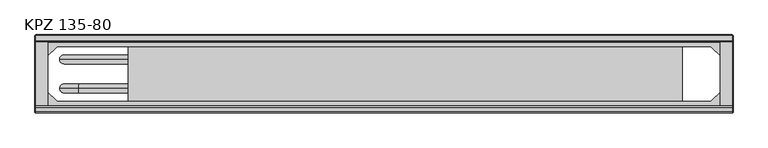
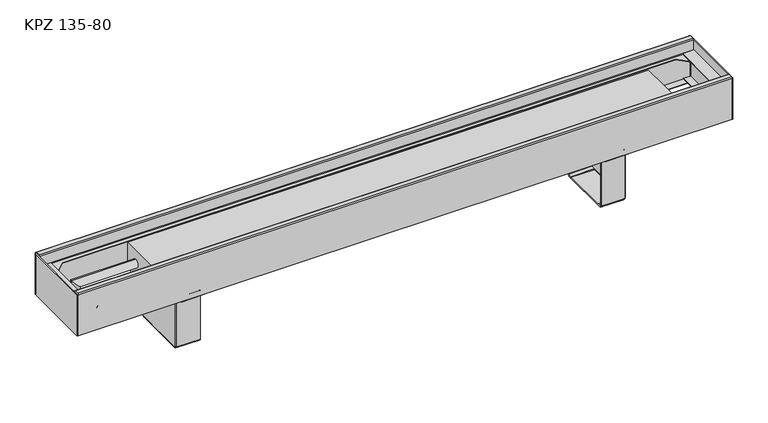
"""IFC4 building model written with IfcOpenShell, lengths in millimetres: proxy geometry, TECHNO_Конвектор напольный_Vita KPZ 135 : KPZ 135-80."""

from ifc_helpers import new_model, si_unit, point, frame, origin, place, context, project, spatial, polyline, circle_curve, ellipse_curve, trimmed, outline, extrude, source, transform, mapped, element, save
from ifc_brep_helpers import plane_surface, cylinder_surface, revolved_surface, advanced_brep


def kpz_135_80_52dbe980(model_context):
    return source(origin(), model_context, "Body", "SolidModel", [
        advanced_brep(
        [(409.7, -116.8, 1.5), (409.7, -114.5, 3.8), (409.7, -114.5, 4.9), (409.7, -116.0, 4.9), (409.7, -116.0, 3.8), (409.7, -116.8, 3.0), (409.7, -124.5, 3.0), (409.7, -124.5, 1.5), (409.7, -117.6, 1.5), (409.7, -114.5, 97.7), (409.7, -113.7, 98.5), (409.7, -101.0, 98.5), (409.7, -101.0, 100.0), (409.7, -113.7, 100.0), (409.7, -116.0, 97.7), (409.7, -116.0, 95.5), (409.7, -114.5, 95.5), (409.7, -220.5, 3.8), (409.7, -218.2, 1.5), (409.7, -217.4, 1.5), (409.7, -210.5, 1.5), (409.7, -210.5, 3.0), (409.7, -218.2, 3.0), (409.7, -219.0, 3.8), (409.7, -219.0, 4.9), (409.7, -220.5, 4.9), (409.7, -219.0, 97.7), (409.7, -221.3, 100.0), (409.7, -234.0, 100.0), (409.7, -234.0, 98.5), (409.7, -221.3, 98.5), (409.7, -220.5, 97.7), (409.7, -220.5, 95.5), (409.7, -219.0, 95.5), (367.0, -220.5, 97.7), (367.0, -221.3, 98.5), (367.0, -234.0, 98.5), (367.0, -234.0, 100.0), (367.0, -221.3, 100.0), (367.0, -219.0, 97.7), (367.0, -219.0, 3.8), (367.0, -218.2, 3.0), (367.0, -210.5, 3.0), (367.0, -210.5, 1.5), (367.0, -124.5, 1.5), (367.0, -124.5, 3.0), (367.0, -116.8, 3.0), (367.0, -116.0, 3.8), (367.0, -116.0, 97.7), (367.0, -113.7, 100.0), (367.0, -101.0, 100.0), (367.0, -101.0, 98.5), (367.0, -113.7, 98.5), (367.0, -114.5, 97.7), (367.0, -114.5, 3.8), (367.0, -116.8, 1.5), (367.0, -117.6, 1.5), (367.0, -117.6, 0.0), (367.0, -217.4, 0.0), (367.0, -217.4, 1.5), (367.0, -218.2, 1.5), (367.0, -220.5, 3.8), (410.5, -116.8, 95.5), (410.5, -218.2, 95.5), (412.0, -218.2, 95.5), (412.0, -116.8, 95.5), (412.0, -116.8, 4.9), (412.0, -117.6, 4.9), (410.5, -117.6, 4.9), (410.5, -116.8, 4.9), (410.5, -218.2, 4.9), (410.5, -217.4, 4.9), (412.0, -217.4, 4.9), (412.0, -218.2, 4.9), (410.5, -117.6, 2.3), (410.5, -217.4, 2.3), (412.0, -217.4, 2.3), (412.0, -117.6, 2.3), (409.7, -117.6, 0.0), (409.7, -217.4, 0.0)],
        [
            (0, 1, circle_curve(frame((409.7, -116.8, 3.8), z_axis=(1.0, 0.0, 0.0), x_axis=(0.0, -1.0, 0.0)), 2.3)),
            (1, 2),
            (2, 3),
            (3, 4),
            (4, 5, circle_curve(frame((409.7, -116.8, 3.8), z_axis=(-1.0, 0.0, 0.0), x_axis=(0.0, -1.0, 0.0)), 0.8)),
            (5, 6),
            (6, 7),
            (7, 8),
            (8, 0),
            (9, 10, circle_curve(frame((409.7, -113.7, 97.7), z_axis=(-1.0, 0.0, 0.0), x_axis=(0.0, -1.0, 0.0)), 0.8)),
            (10, 11),
            (11, 12),
            (12, 13),
            (13, 14, circle_curve(frame((409.7, -113.7, 97.7), z_axis=(1.0, 0.0, 0.0), x_axis=(0.0, -1.0, 0.0)), 2.3)),
            (14, 15),
            (15, 16),
            (16, 9),
            (17, 18, circle_curve(frame((409.7, -218.2, 3.8), z_axis=(1.0, 0.0, 0.0), x_axis=(0.0, -1.0, 0.0)), 2.3)),
            (18, 19),
            (19, 20),
            (20, 21),
            (21, 22),
            (22, 23, circle_curve(frame((409.7, -218.2, 3.8), z_axis=(-1.0, 0.0, 0.0), x_axis=(0.0, -1.0, 0.0)), 0.8)),
            (23, 24),
            (24, 25),
            (25, 17),
            (26, 27, circle_curve(frame((409.7, -221.3, 97.7), z_axis=(1.0, 0.0, 0.0), x_axis=(0.0, -1.0, 0.0)), 2.3)),
            (27, 28),
            (28, 29),
            (29, 30),
            (30, 31, circle_curve(frame((409.7, -221.3, 97.7), z_axis=(-1.0, 0.0, 0.0), x_axis=(0.0, -1.0, 0.0)), 0.8)),
            (31, 32),
            (32, 33),
            (33, 26),
            (34, 35, circle_curve(frame((367.0, -221.3, 97.7), z_axis=(1.0, 0.0, 0.0), x_axis=(0.0, -1.0, 0.0)), 0.8)),
            (35, 36),
            (36, 37),
            (37, 38),
            (38, 39, circle_curve(frame((367.0, -221.3, 97.7), z_axis=(-1.0, 0.0, 0.0), x_axis=(0.0, -1.0, 0.0)), 2.3)),
            (39, 40),
            (40, 41, circle_curve(frame((367.0, -218.2, 3.8), z_axis=(1.0, 0.0, 0.0), x_axis=(0.0, -1.0, 0.0)), 0.8)),
            (41, 42),
            (42, 43),
            (43, 44),
            (44, 45),
            (45, 46),
            (46, 47, circle_curve(frame((367.0, -116.8, 3.8), z_axis=(1.0, 0.0, 0.0), x_axis=(0.0, -1.0, 0.0)), 0.8)),
            (47, 48),
            (48, 49, circle_curve(frame((367.0, -113.7, 97.7), z_axis=(-1.0, 0.0, 0.0), x_axis=(0.0, -1.0, 0.0)), 2.3)),
            (49, 50),
            (50, 51),
            (51, 52),
            (52, 53, circle_curve(frame((367.0, -113.7, 97.7), z_axis=(1.0, 0.0, 0.0), x_axis=(0.0, -1.0, 0.0)), 0.8)),
            (53, 54),
            (54, 55, circle_curve(frame((367.0, -116.8, 3.8), z_axis=(-1.0, 0.0, 0.0), x_axis=(0.0, -1.0, 0.0)), 2.3)),
            (55, 56),
            (56, 57),
            (57, 58),
            (58, 59),
            (59, 60),
            (60, 61, circle_curve(frame((367.0, -218.2, 3.8), z_axis=(-1.0, 0.0, 0.0), x_axis=(0.0, -1.0, 0.0)), 2.3)),
            (61, 34),
            (30, 35),
            (34, 31),
            (29, 36),
            (28, 37),
            (27, 38),
            (26, 39),
            (33, 24),
            (23, 40),
            (22, 41),
            (5, 46),
            (45, 6),
            (4, 47),
            (3, 15),
            (14, 48),
            (13, 49),
            (12, 50),
            (11, 51),
            (10, 52),
            (9, 53),
            (16, 2),
            (1, 54),
            (0, 55),
            (8, 56),
            (17, 61),
            (60, 18),
            (25, 32),
            (21, 42),
            (20, 43),
            (59, 19),
            (44, 7),
            (15, 62, circle_curve(frame((409.7, -116.8, 95.5), z_axis=(0.0, 0.0, -1.0), x_axis=(-1.0, 0.0, 0.0)), 0.8)),
            (62, 63),
            (63, 33, circle_curve(frame((409.7, -218.2, 95.5), z_axis=(0.0, 0.0, -1.0), x_axis=(-1.0, 0.0, 0.0)), 0.8)),
            (32, 64, circle_curve(frame((409.7, -218.2, 95.5), z_axis=(0.0, 0.0, 1.0), x_axis=(-1.0, 0.0, 0.0)), 2.3)),
            (64, 65),
            (65, 16, circle_curve(frame((409.7, -116.8, 95.5), z_axis=(0.0, 0.0, 1.0), x_axis=(-1.0, 0.0, 0.0)), 2.3)),
            (2, 66, circle_curve(frame((409.7, -116.8, 4.9), z_axis=(0.0, 0.0, -1.0), x_axis=(-1.0, 0.0, 0.0)), 2.3)),
            (66, 67),
            (67, 68),
            (68, 69),
            (69, 3, circle_curve(frame((409.7, -116.8, 4.9), z_axis=(0.0, 0.0, 1.0), x_axis=(-1.0, 0.0, 0.0)), 0.8)),
            (24, 70, circle_curve(frame((409.7, -218.2, 4.9), z_axis=(0.0, 0.0, 1.0), x_axis=(-1.0, 0.0, 0.0)), 0.8)),
            (70, 71),
            (71, 72),
            (72, 73),
            (73, 25, circle_curve(frame((409.7, -218.2, 4.9), z_axis=(0.0, 0.0, -1.0), x_axis=(-1.0, 0.0, 0.0)), 2.3)),
            (69, 62),
            (68, 74),
            (74, 75),
            (75, 71),
            (70, 63),
            (64, 73),
            (72, 76),
            (76, 77),
            (77, 67),
            (66, 65),
            (8, 74, circle_curve(frame((409.7, -117.6, 2.3), z_axis=(0.0, -1.0, 0.0), x_axis=(-1.0, 0.0, 0.0)), 0.8)),
            (77, 78, circle_curve(frame((409.7, -117.6, 2.3), z_axis=(0.0, 1.0, 0.0), x_axis=(-1.0, 0.0, 0.0)), 2.3)),
            (78, 57),
            (58, 79),
            (79, 76, circle_curve(frame((409.7, -217.4, 2.3), z_axis=(0.0, -1.0, 0.0), x_axis=(-1.0, 0.0, 0.0)), 2.3)),
            (75, 19, circle_curve(frame((409.7, -217.4, 2.3), z_axis=(0.0, 1.0, 0.0), x_axis=(-1.0, 0.0, 0.0)), 0.8)),
            (20, 7),
            (79, 78),
        ],
        [
            plane_surface(frame((409.7, -222.1, 97.7), z_axis=(1.0, 0.0, 0.0), x_axis=(0.0, 0.0, 1.0))),
            plane_surface(frame((367.0, -222.1, 97.7), z_axis=(-1.0, 0.0, 0.0), x_axis=(0.0, 0.0, -1.0))),
            revolved_surface(polyline([(409.7, -222.10000000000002, 97.7), (367.0, -222.10000000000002, 97.7)]), (409.7, -221.3, 97.7), (1.0, 0.0, 0.0)),
            plane_surface(frame((367.0, -221.3, 98.5), z_axis=(0.0, 0.0, -1.0), x_axis=(1.0, 0.0, 0.0))),
            plane_surface(frame((367.0, -234.0, 98.5), z_axis=(0.0, -1.0, 0.0), x_axis=(1.0, 0.0, 0.0))),
            plane_surface(frame((367.0, -234.0, 100.0), z_axis=(0.0, 0.0, 1.0), x_axis=(1.0, 0.0, 0.0))),
            cylinder_surface(frame((409.7, -221.3, 97.7), z_axis=(-1.0, 0.0, 0.0), x_axis=(0.0, -1.0, 0.0)), 2.3),
            plane_surface(frame((367.0, -219.0, 97.7), z_axis=(0.0, 1.0, 0.0), x_axis=(1.0, 0.0, 0.0))),
            revolved_surface(polyline([(409.7, -219.0, 3.8), (367.0, -219.0, 3.8)]), (409.7, -218.2, 3.8), (1.0, 0.0, 0.0)),
            plane_surface(frame((367.0, -124.5, 3.0), z_axis=(0.0, 0.0, 1.0), x_axis=(1.0, 0.0, 0.0))),
            revolved_surface(polyline([(409.7, -117.6, 3.8), (367.0, -117.6, 3.8)]), (412.0, -116.8, 3.8), (1.0, 0.0, 0.0)),
            plane_surface(frame((367.0, -116.0, 3.8), z_axis=(0.0, -1.0, 0.0), x_axis=(1.0, 0.0, 0.0))),
            cylinder_surface(frame((412.0, -113.7, 97.7), z_axis=(-1.0, 0.0, 0.0), x_axis=(0.0, -1.0, 0.0)), 2.3),
            plane_surface(frame((367.0, -113.7, 100.0), z_axis=(0.0, 0.0, 1.0), x_axis=(1.0, 0.0, 0.0))),
            plane_surface(frame((367.0, -101.0, 100.0), z_axis=(0.0, 1.0, 0.0), x_axis=(1.0, 0.0, 0.0))),
            plane_surface(frame((367.0, -101.0, 98.5), z_axis=(0.0, 0.0, -1.0), x_axis=(1.0, 0.0, 0.0))),
            revolved_surface(polyline([(409.7, -114.5, 97.7), (367.0, -114.5, 97.7)]), (412.0, -113.7, 97.7), (1.0, 0.0, 0.0)),
            plane_surface(frame((367.0, -114.5, 97.7), z_axis=(0.0, 1.0, 0.0), x_axis=(1.0, 0.0, 0.0))),
            cylinder_surface(frame((412.0, -116.8, 3.8), z_axis=(-1.0, 0.0, 0.0), x_axis=(0.0, -1.0, 0.0)), 2.3),
            plane_surface(frame((367.0, -116.8, 1.5), z_axis=(0.0, 0.0, -1.0), x_axis=(1.0, 0.0, 0.0))),
            cylinder_surface(frame((409.7, -218.2, 3.8), z_axis=(-1.0, 0.0, 0.0), x_axis=(0.0, -1.0, 0.0)), 2.3),
            plane_surface(frame((367.0, -220.5, 3.8), z_axis=(0.0, -1.0, 0.0), x_axis=(1.0, 0.0, 0.0))),
            plane_surface(frame((367.0, -218.2, 3.0), z_axis=(0.0, 0.0, 1.0), x_axis=(1.0, 0.0, 0.0))),
            plane_surface(frame((367.0, -210.5, 3.0), z_axis=(0.0, 1.0, 0.0), x_axis=(1.0, 0.0, 0.0))),
            plane_surface(frame((367.0, -210.5, 1.5), z_axis=(0.0, 0.0, -1.0), x_axis=(1.0, 0.0, 0.0))),
            plane_surface(frame((367.0, -124.5, 1.5), z_axis=(0.0, -1.0, 0.0), x_axis=(1.0, 0.0, 0.0))),
            plane_surface(frame((409.7, -116.0, 95.5), z_axis=(0.0, 0.0, 1.0), x_axis=(0.0, -1.0, 0.0))),
            plane_surface(frame((409.7, -116.0, 4.9), z_axis=(0.0, 0.0, -1.0), x_axis=(0.0, 1.0, 0.0))),
            revolved_surface(polyline([(408.9, -116.8, 4.9), (408.9, -116.8, 95.5)]), (409.7, -116.8, 4.9), (0.0, 0.0, -1.0)),
            plane_surface(frame((410.5, -116.8, 95.5), z_axis=(-1.0, 0.0, 0.0), x_axis=(0.0, 0.0, -1.0))),
            plane_surface(frame((412.0, -117.6, 95.5), z_axis=(1.0, 0.0, 0.0), x_axis=(0.0, 0.0, -1.0))),
            cylinder_surface(frame((409.7, -116.8, 4.9), z_axis=(0.0, 0.0, 1.0), x_axis=(-1.0, 0.0, 0.0)), 2.3),
            cylinder_surface(frame((409.7, -218.2, 0.0), z_axis=(0.0, 0.0, 1.0), x_axis=(-1.0, 0.0, 0.0)), 2.3),
            revolved_surface(polyline([(408.9, -218.2, 4.9), (408.9, -218.2, 95.5)]), (409.7, -218.2, 0.0), (0.0, 0.0, -1.0)),
            plane_surface(frame((367.0, -117.6, 1.5), z_axis=(0.0, 1.0, 0.0), x_axis=(0.0, 0.0, 1.0))),
            plane_surface(frame((367.0, -217.4, 1.5), z_axis=(0.0, -1.0, 0.0), x_axis=(0.0, 0.0, -1.0))),
            plane_surface(frame((367.0, -117.6, 1.5), z_axis=(0.0, 0.0, 1.0), x_axis=(0.0, -1.0, 0.0))),
            revolved_surface(polyline([(408.9, -217.4, 2.3), (408.9, -117.6, 2.3)]), (409.7, -217.4, 2.3), (0.0, -1.0, 0.0)),
            cylinder_surface(frame((409.7, -217.4, 2.3), z_axis=(0.0, 1.0, 0.0), x_axis=(-1.0, 0.0, 0.0)), 2.3),
            plane_surface(frame((409.7, -117.6, 0.0), z_axis=(0.0, 0.0, -1.0), x_axis=(0.0, -1.0, 0.0))),
        ],
        [
            (0, [[1, 2, 3, 4, 5, 6, 7, 8, 9]]),
            (0, [[10, 11, 12, 13, 14, 15, 16, 17]]),
            (0, [[18, 19, 20, 21, 22, 23, 24, 25, 26]]),
            (0, [[27, 28, 29, 30, 31, 32, 33, 34]]),
            (1, [[35, 36, 37, 38, 39, 40, 41, 42, 43, 44, 45, 46, 47, 48, 49, 50, 51, 52, 53, 54, 55, 56, 57, 58, 59, 60, 61, 62]]),
            (2, [[-31, 63, -35, 64]]),
            (3, [[-30, 65, -36, -63]]),
            (4, [[-29, 66, -37, -65]]),
            (5, [[-28, 67, -38, -66]]),
            (6, [[-27, 68, -39, -67]]),
            (7, [[-40, -68, -34, 69, -24, 70]]),
            (8, [[-23, 71, -41, -70]]),
            (9, [[-6, 72, -46, 73]]),
            (10, [[-5, 74, -47, -72]]),
            (11, [[-48, -74, -4, 75, -15, 76]]),
            (12, [[-14, 77, -49, -76]]),
            (13, [[-13, 78, -50, -77]]),
            (14, [[-12, 79, -51, -78]]),
            (15, [[-11, 80, -52, -79]]),
            (16, [[-10, 81, -53, -80]]),
            (17, [[-54, -81, -17, 82, -2, 83]]),
            (18, [[-1, 84, -55, -83]]),
            (19, [[-84, -9, 85, -56]]),
            (20, [[-18, 86, -61, 87]]),
            (21, [[-62, -86, -26, 88, -32, -64]]),
            (22, [[-22, 89, -42, -71]]),
            (23, [[-21, 90, -43, -89]]),
            (24, [[-87, -60, 91, -19]]),
            (25, [[-7, -73, -45, 92]]),
            (26, [[93, 94, 95, -33, 96, 97, 98, -16]]),
            (27, [[99, 100, 101, 102, 103, -3]]),
            (27, [[104, 105, 106, 107, 108, -25]]),
            (28, [[-93, -75, -103, 109]]),
            (29, [[-94, -109, -102, 110, 111, 112, -105, 113]]),
            (30, [[-97, 114, -107, 115, 116, 117, -100, 118]]),
            (31, [[-98, -118, -99, -82]]),
            (32, [[-96, -88, -108, -114]]),
            (33, [[-95, -113, -104, -69]]),
            (34, [[-57, -85, 119, -110, -101, -117, 120, 121]]),
            (35, [[122, 123, -115, -106, -112, 124, -91, -59]]),
            (36, [[125, -92, -44, -90]]),
            (37, [[-119, -8, -125, -20, -124, -111]]),
            (38, [[-120, -116, -123, 126]]),
            (39, [[-121, -126, -122, -58]]),
        ],
    ),
        advanced_brep(
        [(-409.7, -218.2, 1.5), (-409.7, -220.5, 3.8), (-409.7, -220.5, 4.9), (-409.7, -219.0, 4.9), (-409.7, -219.0, 3.8), (-409.7, -218.2, 3.0), (-409.7, -210.5, 3.0), (-409.7, -210.5, 1.5), (-409.7, -217.4, 1.5), (-409.7, -220.5, 97.7), (-409.7, -221.3, 98.5), (-409.7, -234.0, 98.5), (-409.7, -234.0, 100.0), (-409.7, -221.3, 100.0), (-409.7, -219.0, 97.7), (-409.7, -219.0, 95.5), (-409.7, -220.5, 95.5), (-409.7, -114.5, 3.8), (-409.7, -116.8, 1.5), (-409.7, -117.6, 1.5), (-409.7, -124.5, 1.5), (-409.7, -124.5, 3.0), (-409.7, -116.8, 3.0), (-409.7, -116.0, 3.8), (-409.7, -116.0, 4.9), (-409.7, -114.5, 4.9), (-409.7, -116.0, 97.7), (-409.7, -113.7, 100.0), (-409.7, -101.0, 100.0), (-409.7, -101.0, 98.5), (-409.7, -113.7, 98.5), (-409.7, -114.5, 97.7), (-409.7, -114.5, 95.5), (-409.7, -116.0, 95.5), (-367.0, -114.5, 97.7), (-367.0, -113.7, 98.5), (-367.0, -101.0, 98.5), (-367.0, -101.0, 100.0), (-367.0, -113.7, 100.0), (-367.0, -116.0, 97.7), (-367.0, -116.0, 3.8), (-367.0, -116.8, 3.0), (-367.0, -124.5, 3.0), (-367.0, -124.5, 1.5), (-367.0, -210.5, 1.5), (-367.0, -210.5, 3.0), (-367.0, -218.2, 3.0), (-367.0, -219.0, 3.8), (-367.0, -219.0, 97.7), (-367.0, -221.3, 100.0), (-367.0, -234.0, 100.0), (-367.0, -234.0, 98.5), (-367.0, -221.3, 98.5), (-367.0, -220.5, 97.7), (-367.0, -220.5, 3.8), (-367.0, -218.2, 1.5), (-367.0, -217.4, 1.5), (-367.0, -217.4, 0.0), (-367.0, -117.6, 0.0), (-367.0, -117.6, 1.5), (-367.0, -116.8, 1.5), (-367.0, -114.5, 3.8), (-410.5, -218.2, 95.5), (-410.5, -116.8, 95.5), (-412.0, -116.8, 95.5), (-412.0, -218.2, 95.5), (-412.0, -218.2, 4.9), (-412.0, -217.4, 4.9), (-410.5, -217.4, 4.9), (-410.5, -218.2, 4.9), (-410.5, -116.8, 4.9), (-410.5, -117.6, 4.9), (-412.0, -117.6, 4.9), (-412.0, -116.8, 4.9), (-410.5, -217.4, 2.3), (-410.5, -117.6, 2.3), (-412.0, -117.6, 2.3), (-412.0, -217.4, 2.3), (-409.7, -217.4, 0.0), (-409.7, -117.6, 0.0)],
        [
            (0, 1, circle_curve(frame((-409.7, -218.2, 3.8), z_axis=(-1.0, 0.0, 0.0), x_axis=(0.0, 1.0, 0.0)), 2.3)),
            (1, 2),
            (2, 3),
            (3, 4),
            (4, 5, circle_curve(frame((-409.7, -218.2, 3.8), z_axis=(1.0, 0.0, 0.0), x_axis=(0.0, 1.0, 0.0)), 0.8)),
            (5, 6),
            (6, 7),
            (7, 8),
            (8, 0),
            (9, 10, circle_curve(frame((-409.7, -221.3, 97.7), z_axis=(1.0, 0.0, 0.0), x_axis=(0.0, 1.0, 0.0)), 0.8)),
            (10, 11),
            (11, 12),
            (12, 13),
            (13, 14, circle_curve(frame((-409.7, -221.3, 97.7), z_axis=(-1.0, 0.0, 0.0), x_axis=(0.0, 1.0, 0.0)), 2.3)),
            (14, 15),
            (15, 16),
            (16, 9),
            (17, 18, circle_curve(frame((-409.7, -116.8, 3.8), z_axis=(-1.0, 0.0, 0.0), x_axis=(0.0, 1.0, 0.0)), 2.3)),
            (18, 19),
            (19, 20),
            (20, 21),
            (21, 22),
            (22, 23, circle_curve(frame((-409.7, -116.8, 3.8), z_axis=(1.0, 0.0, 0.0), x_axis=(0.0, 1.0, 0.0)), 0.8)),
            (23, 24),
            (24, 25),
            (25, 17),
            (26, 27, circle_curve(frame((-409.7, -113.7, 97.7), z_axis=(-1.0, 0.0, 0.0), x_axis=(0.0, 1.0, 0.0)), 2.3)),
            (27, 28),
            (28, 29),
            (29, 30),
            (30, 31, circle_curve(frame((-409.7, -113.7, 97.7), z_axis=(1.0, 0.0, 0.0), x_axis=(0.0, 1.0, 0.0)), 0.8)),
            (31, 32),
            (32, 33),
            (33, 26),
            (34, 35, circle_curve(frame((-367.0, -113.7, 97.7), z_axis=(-1.0, 0.0, 0.0), x_axis=(0.0, 1.0, 0.0)), 0.8)),
            (35, 36),
            (36, 37),
            (37, 38),
            (38, 39, circle_curve(frame((-367.0, -113.7, 97.7), z_axis=(1.0, 0.0, 0.0), x_axis=(0.0, 1.0, 0.0)), 2.3)),
            (39, 40),
            (40, 41, circle_curve(frame((-367.0, -116.8, 3.8), z_axis=(-1.0, 0.0, 0.0), x_axis=(0.0, 1.0, 0.0)), 0.8)),
            (41, 42),
            (42, 43),
            (43, 44),
            (44, 45),
            (45, 46),
            (46, 47, circle_curve(frame((-367.0, -218.2, 3.8), z_axis=(-1.0, 0.0, 0.0), x_axis=(0.0, 1.0, 0.0)), 0.8)),
            (47, 48),
            (48, 49, circle_curve(frame((-367.0, -221.3, 97.7), z_axis=(1.0, 0.0, 0.0), x_axis=(0.0, 1.0, 0.0)), 2.3)),
            (49, 50),
            (50, 51),
            (51, 52),
            (52, 53, circle_curve(frame((-367.0, -221.3, 97.7), z_axis=(-1.0, 0.0, 0.0), x_axis=(0.0, 1.0, 0.0)), 0.8)),
            (53, 54),
            (54, 55, circle_curve(frame((-367.0, -218.2, 3.8), z_axis=(1.0, 0.0, 0.0), x_axis=(0.0, 1.0, 0.0)), 2.3)),
            (55, 56),
            (56, 57),
            (57, 58),
            (58, 59),
            (59, 60),
            (60, 61, circle_curve(frame((-367.0, -116.8, 3.8), z_axis=(1.0, 0.0, 0.0), x_axis=(0.0, 1.0, 0.0)), 2.3)),
            (61, 34),
            (30, 35),
            (34, 31),
            (29, 36),
            (28, 37),
            (27, 38),
            (26, 39),
            (33, 24),
            (23, 40),
            (22, 41),
            (5, 46),
            (45, 6),
            (4, 47),
            (3, 15),
            (14, 48),
            (13, 49),
            (12, 50),
            (11, 51),
            (10, 52),
            (9, 53),
            (16, 2),
            (1, 54),
            (0, 55),
            (8, 56),
            (17, 61),
            (60, 18),
            (25, 32),
            (21, 42),
            (20, 43),
            (59, 19),
            (44, 7),
            (15, 62, circle_curve(frame((-409.7, -218.2, 95.5), z_axis=(0.0, 0.0, -1.0), x_axis=(1.0, 0.0, 0.0)), 0.8)),
            (62, 63),
            (63, 33, circle_curve(frame((-409.7, -116.8, 95.5), z_axis=(0.0, 0.0, -1.0), x_axis=(1.0, 0.0, 0.0)), 0.8)),
            (32, 64, circle_curve(frame((-409.7, -116.8, 95.5), z_axis=(0.0, 0.0, 1.0), x_axis=(1.0, 0.0, 0.0)), 2.3)),
            (64, 65),
            (65, 16, circle_curve(frame((-409.7, -218.2, 95.5), z_axis=(0.0, 0.0, 1.0), x_axis=(1.0, 0.0, 0.0)), 2.3)),
            (2, 66, circle_curve(frame((-409.7, -218.2, 4.9), z_axis=(0.0, 0.0, -1.0), x_axis=(1.0, 0.0, 0.0)), 2.3)),
            (66, 67),
            (67, 68),
            (68, 69),
            (69, 3, circle_curve(frame((-409.7, -218.2, 4.9), z_axis=(0.0, 0.0, 1.0), x_axis=(1.0, 0.0, 0.0)), 0.8)),
            (24, 70, circle_curve(frame((-409.7, -116.8, 4.9), z_axis=(0.0, 0.0, 1.0), x_axis=(1.0, 0.0, 0.0)), 0.8)),
            (70, 71),
            (71, 72),
            (72, 73),
            (73, 25, circle_curve(frame((-409.7, -116.8, 4.9), z_axis=(0.0, 0.0, -1.0), x_axis=(1.0, 0.0, 0.0)), 2.3)),
            (69, 62),
            (68, 74),
            (74, 75),
            (75, 71),
            (70, 63),
            (64, 73),
            (72, 76),
            (76, 77),
            (77, 67),
            (66, 65),
            (8, 74, circle_curve(frame((-409.7, -217.4, 2.3), z_axis=(0.0, 1.0, 0.0), x_axis=(1.0, 0.0, 0.0)), 0.8)),
            (77, 78, circle_curve(frame((-409.7, -217.4, 2.3), z_axis=(0.0, -1.0, 0.0), x_axis=(1.0, 0.0, 0.0)), 2.3)),
            (78, 57),
            (58, 79),
            (79, 76, circle_curve(frame((-409.7, -117.6, 2.3), z_axis=(0.0, 1.0, 0.0), x_axis=(1.0, 0.0, 0.0)), 2.3)),
            (75, 19, circle_curve(frame((-409.7, -117.6, 2.3), z_axis=(0.0, -1.0, 0.0), x_axis=(1.0, 0.0, 0.0)), 0.8)),
            (20, 7),
            (79, 78),
        ],
        [
            plane_surface(frame((-409.7, -112.9, 97.7), z_axis=(-1.0, 0.0, 0.0), x_axis=(0.0, 0.0, 1.0))),
            plane_surface(frame((-367.0, -112.9, 97.7), z_axis=(1.0, 0.0, 0.0), x_axis=(0.0, 0.0, -1.0))),
            revolved_surface(polyline([(-409.7, -112.9, 97.7), (-367.0, -112.9, 97.7)]), (-409.7, -113.7, 97.7), (-1.0, 0.0, 0.0)),
            plane_surface(frame((-367.0, -113.7, 98.5), z_axis=(0.0, 0.0, -1.0), x_axis=(-1.0, 0.0, 0.0))),
            plane_surface(frame((-367.0, -101.0, 98.5), z_axis=(0.0, 1.0, 0.0), x_axis=(-1.0, 0.0, 0.0))),
            plane_surface(frame((-367.0, -101.0, 100.0), z_axis=(0.0, 0.0, 1.0), x_axis=(-1.0, 0.0, 0.0))),
            cylinder_surface(frame((-409.7, -113.7, 97.7), z_axis=(1.0, 0.0, 0.0), x_axis=(0.0, 1.0, 0.0)), 2.3),
            plane_surface(frame((-367.0, -116.0, 97.7), z_axis=(0.0, -1.0, 0.0), x_axis=(-1.0, 0.0, 0.0))),
            revolved_surface(polyline([(-409.7, -116.0, 3.8), (-367.0, -116.0, 3.8)]), (-409.7, -116.8, 3.8), (-1.0, 0.0, 0.0)),
            plane_surface(frame((-367.0, -210.5, 3.0), z_axis=(0.0, 0.0, 1.0), x_axis=(-1.0, 0.0, 0.0))),
            revolved_surface(polyline([(-409.7, -217.39999999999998, 3.8), (-367.0, -217.39999999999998, 3.8)]), (-412.0, -218.2, 3.8), (-1.0, 0.0, 0.0)),
            plane_surface(frame((-367.0, -219.0, 3.8), z_axis=(0.0, 1.0, 0.0), x_axis=(-1.0, 0.0, 0.0))),
            cylinder_surface(frame((-412.0, -221.3, 97.7), z_axis=(1.0, 0.0, 0.0), x_axis=(0.0, 1.0, 0.0)), 2.3),
            plane_surface(frame((-367.0, -221.3, 100.0), z_axis=(0.0, 0.0, 1.0), x_axis=(-1.0, 0.0, 0.0))),
            plane_surface(frame((-367.0, -234.0, 100.0), z_axis=(0.0, -1.0, 0.0), x_axis=(-1.0, 0.0, 0.0))),
            plane_surface(frame((-367.0, -234.0, 98.5), z_axis=(0.0, 0.0, -1.0), x_axis=(-1.0, 0.0, 0.0))),
            revolved_surface(polyline([(-409.7, -220.5, 97.7), (-367.0, -220.5, 97.7)]), (-412.0, -221.3, 97.7), (-1.0, 0.0, 0.0)),
            plane_surface(frame((-367.0, -220.5, 97.7), z_axis=(0.0, -1.0, 0.0), x_axis=(-1.0, 0.0, 0.0))),
            cylinder_surface(frame((-412.0, -218.2, 3.8), z_axis=(1.0, 0.0, 0.0), x_axis=(0.0, 1.0, 0.0)), 2.3),
            plane_surface(frame((-367.0, -218.2, 1.5), z_axis=(0.0, 0.0, -1.0), x_axis=(-1.0, 0.0, 0.0))),
            cylinder_surface(frame((-409.7, -116.8, 3.8), z_axis=(1.0, 0.0, 0.0), x_axis=(0.0, 1.0, 0.0)), 2.3),
            plane_surface(frame((-367.0, -114.5, 3.8), z_axis=(0.0, 1.0, 0.0), x_axis=(-1.0, 0.0, 0.0))),
            plane_surface(frame((-367.0, -116.8, 3.0), z_axis=(0.0, 0.0, 1.0), x_axis=(-1.0, 0.0, 0.0))),
            plane_surface(frame((-367.0, -124.5, 3.0), z_axis=(0.0, -1.0, 0.0), x_axis=(-1.0, 0.0, 0.0))),
            plane_surface(frame((-367.0, -124.5, 1.5), z_axis=(0.0, 0.0, -1.0), x_axis=(-1.0, 0.0, 0.0))),
            plane_surface(frame((-367.0, -210.5, 1.5), z_axis=(0.0, 1.0, 0.0), x_axis=(-1.0, 0.0, 0.0))),
            plane_surface(frame((-409.7, -219.0, 95.5), z_axis=(0.0, 0.0, 1.0), x_axis=(0.0, 1.0, 0.0))),
            plane_surface(frame((-409.7, -219.0, 4.9), z_axis=(0.0, 0.0, -1.0), x_axis=(0.0, -1.0, 0.0))),
            revolved_surface(polyline([(-408.9, -218.2, 4.9), (-408.9, -218.2, 95.5)]), (-409.7, -218.2, 4.9), (0.0, 0.0, -1.0)),
            plane_surface(frame((-410.5, -218.2, 95.5), z_axis=(1.0, 0.0, 0.0), x_axis=(0.0, 0.0, -1.0))),
            plane_surface(frame((-412.0, -217.4, 95.5), z_axis=(-1.0, 0.0, 0.0), x_axis=(0.0, 0.0, -1.0))),
            cylinder_surface(frame((-409.7, -218.2, 4.9), z_axis=(0.0, 0.0, 1.0), x_axis=(1.0, 0.0, 0.0)), 2.3),
            cylinder_surface(frame((-409.7, -116.8, 0.0), z_axis=(0.0, 0.0, 1.0), x_axis=(1.0, 0.0, 0.0)), 2.3),
            revolved_surface(polyline([(-408.9, -116.8, 4.9), (-408.9, -116.8, 95.5)]), (-409.7, -116.8, 0.0), (0.0, 0.0, -1.0)),
            plane_surface(frame((-367.0, -217.4, 1.5), z_axis=(0.0, -1.0, 0.0), x_axis=(0.0, 0.0, 1.0))),
            plane_surface(frame((-367.0, -117.6, 1.5), z_axis=(0.0, 1.0, 0.0), x_axis=(0.0, 0.0, -1.0))),
            plane_surface(frame((-367.0, -217.4, 1.5), z_axis=(0.0, 0.0, 1.0), x_axis=(0.0, 1.0, 0.0))),
            revolved_surface(polyline([(-408.9, -117.6, 2.3), (-408.9, -217.4, 2.3)]), (-409.7, -117.6, 2.3), (0.0, 1.0, 0.0)),
            cylinder_surface(frame((-409.7, -117.6, 2.3), z_axis=(0.0, -1.0, 0.0), x_axis=(1.0, 0.0, 0.0)), 2.3),
            plane_surface(frame((-409.7, -217.4, 0.0), z_axis=(0.0, 0.0, -1.0), x_axis=(0.0, 1.0, 0.0))),
        ],
        [
            (0, [[1, 2, 3, 4, 5, 6, 7, 8, 9]]),
            (0, [[10, 11, 12, 13, 14, 15, 16, 17]]),
            (0, [[18, 19, 20, 21, 22, 23, 24, 25, 26]]),
            (0, [[27, 28, 29, 30, 31, 32, 33, 34]]),
            (1, [[35, 36, 37, 38, 39, 40, 41, 42, 43, 44, 45, 46, 47, 48, 49, 50, 51, 52, 53, 54, 55, 56, 57, 58, 59, 60, 61, 62]]),
            (2, [[-31, 63, -35, 64]]),
            (3, [[-30, 65, -36, -63]]),
            (4, [[-29, 66, -37, -65]]),
            (5, [[-28, 67, -38, -66]]),
            (6, [[-27, 68, -39, -67]]),
            (7, [[-40, -68, -34, 69, -24, 70]]),
            (8, [[-23, 71, -41, -70]]),
            (9, [[-6, 72, -46, 73]]),
            (10, [[-5, 74, -47, -72]]),
            (11, [[-48, -74, -4, 75, -15, 76]]),
            (12, [[-14, 77, -49, -76]]),
            (13, [[-13, 78, -50, -77]]),
            (14, [[-12, 79, -51, -78]]),
            (15, [[-11, 80, -52, -79]]),
            (16, [[-10, 81, -53, -80]]),
            (17, [[-54, -81, -17, 82, -2, 83]]),
            (18, [[-1, 84, -55, -83]]),
            (19, [[-84, -9, 85, -56]]),
            (20, [[-18, 86, -61, 87]]),
            (21, [[-62, -86, -26, 88, -32, -64]]),
            (22, [[-22, 89, -42, -71]]),
            (23, [[-21, 90, -43, -89]]),
            (24, [[-87, -60, 91, -19]]),
            (25, [[-7, -73, -45, 92]]),
            (26, [[93, 94, 95, -33, 96, 97, 98, -16]]),
            (27, [[99, 100, 101, 102, 103, -3]]),
            (27, [[104, 105, 106, 107, 108, -25]]),
            (28, [[-93, -75, -103, 109]]),
            (29, [[-94, -109, -102, 110, 111, 112, -105, 113]]),
            (30, [[-97, 114, -107, 115, 116, 117, -100, 118]]),
            (31, [[-98, -118, -99, -82]]),
            (32, [[-96, -88, -108, -114]]),
            (33, [[-95, -113, -104, -69]]),
            (34, [[-57, -85, 119, -110, -101, -117, 120, 121]]),
            (35, [[122, 123, -115, -106, -112, 124, -91, -59]]),
            (36, [[125, -92, -44, -90]]),
            (37, [[-119, -8, -125, -20, -124, -111]]),
            (38, [[-120, -116, -123, 126]]),
            (39, [[-121, -126, -122, -58]]),
        ],
    ),
        advanced_brep(
        [(-440.0, -192.5, 136.5), (-440.0, -192.5, 121.5), (-525.0, -192.5, 136.5), (-525.0, -192.5, 121.5), (-542.5, -192.5, 104.0), (-557.5, -192.5, 104.0), (-557.5, -192.5, 100.0), (-542.5, -192.5, 100.0)],
        [
            (0, 1, circle_curve(frame((-440.0, -192.5, 129.0), z_axis=(1.0, 0.0, 0.0), x_axis=(0.0, 0.0, -1.0)), 7.5)),
            (1, 0, circle_curve(frame((-440.0, -192.5, 129.0), z_axis=(1.0, 0.0, 0.0), x_axis=(0.0, 0.0, -1.0)), 7.5)),
            (0, 2),
            (2, 3, circle_curve(frame((-525.0, -192.5, 129.0), z_axis=(1.0, 0.0, 0.0), x_axis=(0.0, 0.0, -1.0)), 7.5)),
            (3, 1),
            (3, 2, circle_curve(frame((-525.0, -192.5, 129.0), z_axis=(1.0, 0.0, 0.0), x_axis=(0.0, 0.0, -1.0)), 7.5)),
            (4, 3, circle_curve(frame((-525.0, -192.5, 104.0), z_axis=(0.0, 1.0, 0.0), x_axis=(0.0, 0.0, 1.0)), 17.5)),
            (2, 5, circle_curve(frame((-525.0, -192.5, 104.0), z_axis=(0.0, -1.0, 0.0), x_axis=(0.0, 0.0, 1.0)), 32.5)),
            (5, 4, circle_curve(frame((-550.0, -192.5, 104.0), z_axis=(0.0, 0.0, 1.0), x_axis=(1.0, 0.0, 0.0)), 7.5)),
            (4, 5, circle_curve(frame((-550.0, -192.5, 104.0), z_axis=(0.0, 0.0, 1.0), x_axis=(1.0, 0.0, 0.0)), 7.5)),
            (6, 7, circle_curve(frame((-550.0, -192.5, 100.0), z_axis=(0.0, 0.0, -1.0), x_axis=(1.0, 0.0, 0.0)), 7.5)),
            (7, 6, circle_curve(frame((-550.0, -192.5, 100.0), z_axis=(0.0, 0.0, -1.0), x_axis=(1.0, 0.0, 0.0)), 7.5)),
            (5, 6),
            (7, 4),
        ],
        [
            plane_surface(frame((-440.0, -192.5, 129.0), z_axis=(1.0, 0.0, 0.0), x_axis=(0.0, -1.0, 0.0))),
            cylinder_surface(frame((-440.0, -192.5, 129.0), z_axis=(1.0, 0.0, 0.0), x_axis=(0.0, 0.0, -1.0)), 7.5),
            revolved_surface(trimmed(ellipse_curve(frame((-525.0, -192.5, 129.0), z_axis=(1.0, 0.0, 0.0), x_axis=(0.0, 0.0, -1.0)), 7.5, 7.5), [point((-525.0, -192.5, 136.5))], [point((-525.0, -192.5, 121.5))], True, "CARTESIAN"), (-525.0, -192.5, 104.0), (0.0, -1.0, 0.0)),
            revolved_surface(trimmed(ellipse_curve(frame((-525.0, -192.5, 129.0), z_axis=(1.0, 0.0, 0.0), x_axis=(0.0, 0.0, -1.0)), 7.5, 7.5), [point((-525.0, -192.5, 121.5))], [point((-525.0, -192.5, 136.5))], True, "CARTESIAN"), (-525.0, -192.5, 104.0), (0.0, -1.0, 0.0)),
            plane_surface(frame((-550.0, -192.5, 100.0), z_axis=(0.0, 0.0, -1.0), x_axis=(0.0, -1.0, 0.0))),
            cylinder_surface(frame((-550.0, -192.5, 104.0), z_axis=(0.0, 0.0, 1.0), x_axis=(1.0, 0.0, 0.0)), 7.5),
        ],
        [
            (0, [[1, 2]]),
            (1, [[-1, 3, 4, 5]]),
            (1, [[-2, -5, 6, -3]]),
            (2, [[7, -4, 8, 9]]),
            (3, [[-8, -6, -7, 10]]),
            (4, [[11, 12]]),
            (5, [[-9, 13, -12, 14]]),
            (5, [[-10, -14, -11, -13]]),
        ],
    ),
        advanced_brep(
        [(-440.0, -142.5, 136.5), (-440.0, -142.5, 121.5), (-557.5, -142.5, 136.5), (-542.5, -142.5, 121.5), (-557.5, -142.5, 100.0), (-542.5, -142.5, 100.0)],
        [
            (0, 1, circle_curve(frame((-440.0, -142.5, 129.0), z_axis=(1.0, 0.0, 0.0), x_axis=(0.0, 0.0, -1.0)), 7.5)),
            (1, 0, circle_curve(frame((-440.0, -142.5, 129.0), z_axis=(1.0, 0.0, 0.0), x_axis=(0.0, 0.0, -1.0)), 7.5)),
            (0, 2),
            (2, 3, ellipse_curve(frame((-550.0, -142.5, 129.0), z_axis=(0.7071067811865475, 0.0, 0.7071067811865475), x_axis=(0.7071067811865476, 0.0, -0.7071067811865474)), 10.6066017, 7.5)),
            (3, 1),
            (3, 2, ellipse_curve(frame((-550.0, -142.5, 129.0), z_axis=(0.7071067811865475, 0.0, 0.7071067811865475), x_axis=(0.7071067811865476, 0.0, -0.7071067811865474)), 10.6066017, 7.5)),
            (4, 5, circle_curve(frame((-550.0, -142.5, 100.0), z_axis=(0.0, 0.0, -1.0), x_axis=(1.0, 0.0, 0.0)), 7.5)),
            (5, 4, circle_curve(frame((-550.0, -142.5, 100.0), z_axis=(0.0, 0.0, -1.0), x_axis=(1.0, 0.0, 0.0)), 7.5)),
            (2, 4),
            (5, 3),
        ],
        [
            plane_surface(frame((-440.0, -142.5, 129.0), z_axis=(1.0, 0.0, 0.0), x_axis=(0.0, -1.0, 0.0))),
            cylinder_surface(frame((-440.0, -142.5, 129.0), z_axis=(1.0, 0.0, 0.0), x_axis=(0.0, 0.0, -1.0)), 7.5),
            plane_surface(frame((-550.0, -142.5, 100.0), z_axis=(0.0, 0.0, -1.0), x_axis=(0.0, -1.0, 0.0))),
            cylinder_surface(frame((-550.0, -142.5, 129.0), z_axis=(0.0, 0.0, 1.0), x_axis=(1.0, 0.0, 0.0)), 7.5),
        ],
        [
            (0, [[1, 2]]),
            (1, [[-1, 3, 4, 5]]),
            (1, [[-2, -5, 6, -3]]),
            (2, [[7, 8]]),
            (3, [[-4, 9, -8, 10]]),
            (3, [[-6, -10, -7, -9]]),
        ],
    ),
        extrude(outline(polyline([(513.0, -117.5), (513.0, -217.5), (-440.0, -217.5), (-440.0, -117.5), (513.0, -117.5)])), frame((0.0, 0.0, 103.87), z_axis=(0.0, 0.0, 1.0), x_axis=(1.0, 0.0, 0.0)), (0.0, 0.0, 1.0), 50.0),
        extrude(outline(polyline([(-585.5004, -102.0), (-585.5004, -233.0), (-599.0, -233.0), (-599.0, -102.0), (-585.5004, -102.0)])), frame((0.0, 0.0, 101.83), z_axis=(0.0, 0.0, 1.0), x_axis=(1.0, 0.0, 0.0)), (0.0, 0.0, 1.0), 1.0002),
        extrude(outline(polyline([(585.5004, -102.0), (599.0, -102.0), (599.0, -233.0), (585.5004, -233.0), (585.5004, -102.0)])), frame((0.0, 0.0, 101.83), z_axis=(0.0, 0.0, 1.0), x_axis=(1.0, 0.0, 0.0)), (0.0, 0.0, 1.0), 1.0002),
        extrude(outline(polyline([(-599.0, -222.2), (-599.0, -112.8), (-578.0, -112.8), (-578.0, -222.2), (-599.0, -222.2)])), frame((0.0, 0.0, 158.83), z_axis=(0.0, 0.0, 1.0), x_axis=(1.0, 0.0, 0.0)), (0.0, 0.0, 1.0), 1.0002),
        extrude(outline(polyline([(599.0, -222.2), (578.0, -222.2), (578.0, -112.8), (599.0, -112.8), (599.0, -222.2)])), frame((0.0, 0.0, 158.83), z_axis=(0.0, 0.0, 1.0), x_axis=(1.0, 0.0, 0.0)), (0.0, 0.0, 1.0), 1.0002),
        advanced_brep(
        [(-598.2, -101.8, 180.83), (-598.2, -100.0, 179.03), (-598.2, -101.0, 179.03), (-598.2, -101.0, 157.83), (-598.2, -138.5, 157.83), (-598.2, -138.5, 158.83), (-598.2, -112.8, 158.83), (-598.2, -112.0, 159.63), (-598.2, -112.0, 179.03), (-598.2, -110.2, 180.83), (-598.2, -233.2, 180.83), (-598.2, -224.8, 180.83), (-598.2, -223.0, 179.03), (-598.2, -223.0, 159.63), (-598.2, -222.2, 158.83), (-598.2, -196.5, 158.83), (-598.2, -196.5, 157.83), (-598.2, -234.0, 157.83), (-598.2, -234.0, 179.03), (-598.2, -235.0, 179.03), (598.2, -101.8, 180.83), (598.2, -110.2, 180.83), (598.2, -112.0, 179.03), (598.2, -112.0, 159.63), (598.2, -112.8, 158.83), (598.2, -138.5, 158.83), (598.2, -138.5, 157.83), (598.2, -101.0, 157.83), (598.2, -101.0, 179.03), (598.2, -100.0, 179.03), (598.2, -233.2, 180.83), (598.2, -235.0, 179.03), (598.2, -234.0, 179.03), (598.2, -234.0, 157.83), (598.2, -196.5, 157.83), (598.2, -196.5, 158.83), (598.2, -222.2, 158.83), (598.2, -223.0, 159.63), (598.2, -223.0, 179.03), (598.2, -224.8, 180.83), (-580.3, -138.5, 158.83), (-561.8, -120.0, 158.83), (561.8, -120.0, 158.83), (580.3, -138.5, 158.83), (-580.3, -138.5, 157.83), (580.3, -138.5, 157.83), (561.8, -120.0, 157.83), (-561.8, -120.0, 157.83), (598.2, -100.0, 100.0), (-598.2, -100.0, 100.0), (-598.2, -235.0, 100.0), (598.2, -235.0, 100.0), (580.3, -196.5, 157.83), (-580.3, -196.5, 157.83), (-561.8, -215.0, 157.83), (561.8, -215.0, 157.83), (-580.3, -196.5, 158.83), (580.3, -196.5, 158.83), (561.8, -215.0, 158.83), (-561.8, -215.0, 158.83), (-600.0, -101.8, 179.03), (-600.0, -233.2, 179.03), (-599.0, -233.2, 179.03), (-599.0, -101.8, 179.03), (600.0, -233.2, 179.03), (600.0, -101.8, 179.03), (599.0, -101.8, 179.03), (599.0, -233.2, 179.03), (600.0, -101.8, 100.0), (600.0, -233.2, 100.0), (-600.0, -233.2, 100.0), (-600.0, -101.8, 100.0), (599.0, -101.8, 100.0), (598.2, -101.0, 100.0), (598.2, -113.0, 100.0), (-598.2, -113.0, 100.0), (-598.2, -101.0, 100.0), (-599.0, -101.8, 100.0), (-599.0, -233.2, 100.0), (-598.2, -234.0, 100.0), (-598.2, -222.0, 100.0), (598.2, -222.0, 100.0), (598.2, -234.0, 100.0), (599.0, -233.2, 100.0), (-598.2, -101.0, 100.83), (598.2, -101.0, 100.83), (598.2, -234.0, 100.83), (-598.2, -234.0, 100.83), (-598.2, -113.0, 100.83), (598.2, -113.0, 100.83), (598.2, -222.0, 100.83), (-598.2, -222.0, 100.83)],
        [
            (0, 1, circle_curve(frame((-598.2, -101.8, 179.03), z_axis=(-1.0, 0.0, 0.0), x_axis=(0.0, 1.0, 0.0)), 1.8)),
            (1, 2),
            (2, 3),
            (3, 4),
            (4, 5),
            (5, 6),
            (6, 7, circle_curve(frame((-598.2, -112.8, 159.63), z_axis=(1.0, 0.0, 0.0), x_axis=(0.0, 1.0, 0.0)), 0.8)),
            (7, 8),
            (8, 9, circle_curve(frame((-598.2, -110.2, 179.03), z_axis=(-1.0, 0.0, 0.0), x_axis=(0.0, 1.0, 0.0)), 1.8)),
            (9, 0),
            (10, 11),
            (11, 12, circle_curve(frame((-598.2, -224.8, 179.03), z_axis=(-1.0, 0.0, 0.0), x_axis=(0.0, 1.0, 0.0)), 1.8)),
            (12, 13),
            (13, 14, circle_curve(frame((-598.2, -222.2, 159.63), z_axis=(1.0, 0.0, 0.0), x_axis=(0.0, 1.0, 0.0)), 0.8)),
            (14, 15),
            (15, 16),
            (16, 17),
            (17, 18),
            (18, 19),
            (19, 10, circle_curve(frame((-598.2, -233.2, 179.03), z_axis=(-1.0, 0.0, 0.0), x_axis=(0.0, 1.0, 0.0)), 1.8)),
            (20, 21),
            (21, 22, circle_curve(frame((598.2, -110.2, 179.03), z_axis=(1.0, 0.0, 0.0), x_axis=(0.0, 1.0, 0.0)), 1.8)),
            (22, 23),
            (23, 24, circle_curve(frame((598.2, -112.8, 159.63), z_axis=(-1.0, 0.0, 0.0), x_axis=(0.0, 1.0, 0.0)), 0.8)),
            (24, 25),
            (25, 26),
            (26, 27),
            (27, 28),
            (28, 29),
            (29, 20, circle_curve(frame((598.2, -101.8, 179.03), z_axis=(1.0, 0.0, 0.0), x_axis=(0.0, 1.0, 0.0)), 1.8)),
            (30, 31, circle_curve(frame((598.2, -233.2, 179.03), z_axis=(1.0, 0.0, 0.0), x_axis=(0.0, 1.0, 0.0)), 1.8)),
            (31, 32),
            (32, 33),
            (33, 34),
            (34, 35),
            (35, 36),
            (36, 37, circle_curve(frame((598.2, -222.2, 159.63), z_axis=(-1.0, 0.0, 0.0), x_axis=(0.0, 1.0, 0.0)), 0.8)),
            (37, 38),
            (38, 39, circle_curve(frame((598.2, -224.8, 179.03), z_axis=(1.0, 0.0, 0.0), x_axis=(0.0, 1.0, 0.0)), 1.8)),
            (39, 30),
            (9, 21),
            (20, 0),
            (8, 22),
            (7, 23),
            (6, 24),
            (5, 40),
            (40, 41),
            (41, 42),
            (42, 43),
            (43, 25),
            (4, 44),
            (44, 40),
            (43, 45),
            (45, 26),
            (45, 46),
            (46, 47),
            (47, 44),
            (3, 27),
            (1, 29),
            (29, 48),
            (48, 49),
            (49, 1),
            (19, 31),
            (30, 10),
            (19, 50),
            (50, 51),
            (51, 31),
            (52, 34),
            (33, 17),
            (16, 53),
            (53, 54),
            (54, 55),
            (55, 52),
            (15, 56),
            (56, 53),
            (52, 57),
            (57, 35),
            (14, 36),
            (57, 58),
            (58, 59),
            (59, 56),
            (13, 37),
            (12, 38),
            (11, 39),
            (42, 46),
            (41, 47),
            (58, 55),
            (54, 59),
            (1, 60, circle_curve(frame((-598.2, -101.8, 179.03), z_axis=(0.0, 0.0, 1.0), x_axis=(1.0, 0.0, 0.0)), 1.8)),
            (60, 61),
            (61, 19, circle_curve(frame((-598.2, -233.2, 179.03), z_axis=(0.0, 0.0, 1.0), x_axis=(1.0, 0.0, 0.0)), 1.8)),
            (18, 62, circle_curve(frame((-598.2, -233.2, 179.03), z_axis=(0.0, 0.0, -1.0), x_axis=(1.0, 0.0, 0.0)), 0.8)),
            (62, 63),
            (63, 2, circle_curve(frame((-598.2, -101.8, 179.03), z_axis=(0.0, 0.0, -1.0), x_axis=(1.0, 0.0, 0.0)), 0.8)),
            (31, 64, circle_curve(frame((598.2, -233.2, 179.03), z_axis=(0.0, 0.0, 1.0), x_axis=(1.0, 0.0, 0.0)), 1.8)),
            (64, 65),
            (65, 29, circle_curve(frame((598.2, -101.8, 179.03), z_axis=(0.0, 0.0, 1.0), x_axis=(1.0, 0.0, 0.0)), 1.8)),
            (28, 66, circle_curve(frame((598.2, -101.8, 179.03), z_axis=(0.0, 0.0, -1.0), x_axis=(1.0, 0.0, 0.0)), 0.8)),
            (66, 67),
            (67, 32, circle_curve(frame((598.2, -233.2, 179.03), z_axis=(0.0, 0.0, -1.0), x_axis=(1.0, 0.0, 0.0)), 0.8)),
            (48, 68, circle_curve(frame((598.2, -101.8, 100.0), z_axis=(0.0, 0.0, -1.0), x_axis=(1.0, 0.0, 0.0)), 1.8)),
            (68, 69),
            (69, 51, circle_curve(frame((598.2, -233.2, 100.0), z_axis=(0.0, 0.0, -1.0), x_axis=(1.0, 0.0, 0.0)), 1.8)),
            (50, 70, circle_curve(frame((-598.2, -233.2, 100.0), z_axis=(0.0, 0.0, -1.0), x_axis=(1.0, 0.0, 0.0)), 1.8)),
            (70, 71),
            (71, 49, circle_curve(frame((-598.2, -101.8, 100.0), z_axis=(0.0, 0.0, -1.0), x_axis=(1.0, 0.0, 0.0)), 1.8)),
            (72, 73, circle_curve(frame((598.2, -101.8, 100.0), z_axis=(0.0, 0.0, 1.0), x_axis=(1.0, 0.0, 0.0)), 0.8)),
            (73, 74),
            (74, 75),
            (75, 76),
            (76, 77, circle_curve(frame((-598.2, -101.8, 100.0), z_axis=(0.0, 0.0, 1.0), x_axis=(1.0, 0.0, 0.0)), 0.8)),
            (77, 78),
            (78, 79, circle_curve(frame((-598.2, -233.2, 100.0), z_axis=(0.0, 0.0, 1.0), x_axis=(1.0, 0.0, 0.0)), 0.8)),
            (79, 80),
            (80, 81),
            (81, 82),
            (82, 83, circle_curve(frame((598.2, -233.2, 100.0), z_axis=(0.0, 0.0, 1.0), x_axis=(1.0, 0.0, 0.0)), 0.8)),
            (83, 72),
            (71, 60),
            (63, 77),
            (76, 84),
            (84, 3),
            (84, 85),
            (85, 27),
            (85, 73),
            (72, 66),
            (83, 67),
            (64, 69),
            (68, 65),
            (82, 86),
            (86, 33),
            (86, 87),
            (87, 17),
            (87, 79),
            (78, 62),
            (70, 61),
            (88, 89),
            (89, 85),
            (84, 88),
            (90, 91),
            (91, 87),
            (86, 90),
            (74, 89),
            (88, 75),
            (80, 91),
            (90, 81),
        ],
        [
            plane_surface(frame((-598.2, -110.2, 180.83), z_axis=(-1.0, 0.0, 0.0), x_axis=(0.0, 1.0, 0.0))),
            plane_surface(frame((598.2, -110.2, 180.83), z_axis=(1.0, 0.0, 0.0), x_axis=(0.0, -1.0, 0.0))),
            plane_surface(frame((598.2, -101.8, 180.83), z_axis=(0.0, 0.0, 1.0), x_axis=(-1.0, 0.0, 0.0))),
            cylinder_surface(frame((-598.2, -110.2, 179.03), z_axis=(1.0, 0.0, 0.0), x_axis=(0.0, 1.0, 0.0)), 1.8),
            plane_surface(frame((598.2, -112.0, 179.03), z_axis=(0.0, -1.0, 0.0), x_axis=(-1.0, 0.0, 0.0))),
            revolved_surface(polyline([(-598.2, -112.0, 159.63), (598.2, -112.0, 159.63)]), (-598.2, -112.8, 159.63), (-1.0, 0.0, 0.0)),
            plane_surface(frame((598.2, -112.8, 158.83), z_axis=(0.0, 0.0, 1.0), x_axis=(-1.0, 0.0, 0.0))),
            plane_surface(frame((598.2, -138.5, 158.83), z_axis=(0.0, -1.0, 0.0), x_axis=(-1.0, 0.0, 0.0))),
            plane_surface(frame((598.2, -138.5, 157.83), z_axis=(0.0, 0.0, -1.0), x_axis=(-1.0, 0.0, 0.0))),
            plane_surface(frame((598.2, -100.0, 157.83), z_axis=(0.0, 1.0, 0.0), x_axis=(-1.0, 0.0, 0.0))),
            cylinder_surface(frame((-598.2, -101.8, 179.03), z_axis=(1.0, 0.0, 0.0), x_axis=(0.0, 1.0, 0.0)), 1.8),
            cylinder_surface(frame((0.0, -233.2, 179.03), z_axis=(1.0, 0.0, 0.0), x_axis=(0.0, 1.0, 0.0)), 1.8),
            plane_surface(frame((598.2, -235.0, 179.03), z_axis=(0.0, -1.0, 0.0), x_axis=(-1.0, 0.0, 0.0))),
            plane_surface(frame((598.2, -235.0, 157.83), z_axis=(0.0, 0.0, -1.0), x_axis=(-1.0, 0.0, 0.0))),
            plane_surface(frame((598.2, -196.5, 157.83), z_axis=(0.0, 1.0, 0.0), x_axis=(-1.0, 0.0, 0.0))),
            plane_surface(frame((598.2, -196.5, 158.83), z_axis=(0.0, 0.0, 1.0), x_axis=(-1.0, 0.0, 0.0))),
            revolved_surface(polyline([(-598.2, -221.39999999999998, 159.63), (598.2, -221.39999999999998, 159.63)]), (0.0, -222.2, 159.63), (-1.0, 0.0, 0.0)),
            plane_surface(frame((598.2, -223.0, 159.63), z_axis=(0.0, 1.0, 0.0), x_axis=(-1.0, 0.0, 0.0))),
            cylinder_surface(frame((0.0, -224.8, 179.03), z_axis=(1.0, 0.0, 0.0), x_axis=(0.0, 1.0, 0.0)), 1.8),
            plane_surface(frame((598.2, -224.8, 180.83), z_axis=(0.0, 0.0, 1.0), x_axis=(-1.0, 0.0, 0.0))),
            plane_surface(frame((580.3, -138.5, 158.83), z_axis=(-0.7071067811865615, -0.7071067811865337, 0.0), x_axis=(0.0, 0.0, -1.0))),
            plane_surface(frame((561.8, -120.0, 158.83), z_axis=(0.0, -1.0, 0.0), x_axis=(0.0, 0.0, -1.0))),
            plane_surface(frame((-561.8, -120.0, 158.83), z_axis=(0.707106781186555, -0.7071067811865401, 0.0), x_axis=(0.0, 0.0, -1.0))),
            plane_surface(frame((-561.8, -215.0, 158.83), z_axis=(0.0, 1.0, 0.0), x_axis=(0.0, 0.0, -1.0))),
            plane_surface(frame((561.8, -215.0, 158.83), z_axis=(-0.7071067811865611, 0.7071067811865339, 0.0), x_axis=(0.0, 0.0, -1.0))),
            plane_surface(frame((-580.3, -196.5, 158.83), z_axis=(0.7071067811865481, 0.7071067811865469, 0.0), x_axis=(0.0, 0.0, -1.0))),
            plane_surface(frame((-598.2, -100.0, 179.03), z_axis=(0.0, 0.0, 1.0), x_axis=(-1.0, 0.0, 0.0))),
            plane_surface(frame((-598.2, -100.0, 100.0), z_axis=(0.0, 0.0, -1.0), x_axis=(1.0, 0.0, 0.0))),
            cylinder_surface(frame((-598.2, -101.8, 100.0), z_axis=(0.0, 0.0, 1.0), x_axis=(1.0, 0.0, 0.0)), 1.8),
            revolved_surface(polyline([(-597.4000000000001, -101.8, 100.0), (-597.4000000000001, -101.8, 179.03)]), (-598.2, -101.8, 0.0), (0.0, 0.0, -1.0)),
            plane_surface(frame((-598.2, -101.0, 179.03), z_axis=(0.0, -1.0, 0.0), x_axis=(0.0, 0.0, -1.0))),
            revolved_surface(polyline([(599.0, -101.8, 100.0), (599.0, -101.8, 179.03)]), (598.2, -101.8, 0.0), (0.0, 0.0, -1.0)),
            plane_surface(frame((599.0, -101.8, 179.03), z_axis=(-1.0, 0.0, 0.0), x_axis=(0.0, 0.0, -1.0))),
            plane_surface(frame((600.0, -233.2, 179.03), z_axis=(1.0, 0.0, 0.0), x_axis=(0.0, 0.0, -1.0))),
            cylinder_surface(frame((598.2, -101.8, 100.0), z_axis=(0.0, 0.0, 1.0), x_axis=(1.0, 0.0, 0.0)), 1.8),
            cylinder_surface(frame((598.2, -233.2, 100.0), z_axis=(0.0, 0.0, 1.0), x_axis=(1.0, 0.0, 0.0)), 1.8),
            revolved_surface(polyline([(599.0, -233.2, 100.0), (599.0, -233.2, 179.03)]), (598.2, -233.2, 0.0), (0.0, 0.0, -1.0)),
            plane_surface(frame((598.2, -234.0, 179.03), z_axis=(0.0, 1.0, 0.0), x_axis=(0.0, 0.0, -1.0))),
            revolved_surface(polyline([(-597.4000000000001, -233.2, 100.0), (-597.4000000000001, -233.2, 179.03)]), (-598.2, -233.2, 0.0), (0.0, 0.0, -1.0)),
            plane_surface(frame((-600.0, -101.8, 179.03), z_axis=(-1.0, 0.0, 0.0), x_axis=(0.0, 0.0, -1.0))),
            cylinder_surface(frame((-598.2, -233.2, 100.0), z_axis=(0.0, 0.0, 1.0), x_axis=(1.0, 0.0, 0.0)), 1.8),
            plane_surface(frame((-599.0, -233.2, 179.03), z_axis=(1.0, 0.0, 0.0), x_axis=(0.0, 0.0, -1.0))),
            plane_surface(frame((598.2, -113.0, 100.83), z_axis=(0.0, 0.0, 1.0), x_axis=(1.0, 0.0, 0.0))),
            plane_surface(frame((-598.2, -113.0, 100.83), z_axis=(0.0, -1.0, 0.0), x_axis=(0.0, 0.0, -1.0))),
            plane_surface(frame((598.2, -113.0, 100.83), z_axis=(1.0, 0.0, 0.0), x_axis=(0.0, 0.0, -1.0))),
            plane_surface(frame((-598.2, -101.0, 100.83), z_axis=(-1.0, 0.0, 0.0), x_axis=(0.0, 0.0, -1.0))),
            plane_surface(frame((598.2, -222.0, 100.83), z_axis=(0.0, 1.0, 0.0), x_axis=(0.0, 0.0, -1.0))),
            plane_surface(frame((-598.2, -222.0, 100.83), z_axis=(-1.0, 0.0, 0.0), x_axis=(0.0, 0.0, -1.0))),
            plane_surface(frame((598.2, -234.0, 100.83), z_axis=(1.0, 0.0, 0.0), x_axis=(0.0, 0.0, -1.0))),
        ],
        [
            (0, [[1, 2, 3, 4, 5, 6, 7, 8, 9, 10]]),
            (0, [[11, 12, 13, 14, 15, 16, 17, 18, 19, 20]]),
            (1, [[21, 22, 23, 24, 25, 26, 27, 28, 29, 30]]),
            (1, [[31, 32, 33, 34, 35, 36, 37, 38, 39, 40]]),
            (2, [[-10, 41, -21, 42]]),
            (3, [[-9, 43, -22, -41]]),
            (4, [[-8, 44, -23, -43]]),
            (5, [[-7, 45, -24, -44]]),
            (6, [[-6, 46, 47, 48, 49, 50, -25, -45]]),
            (7, [[-5, 51, 52, -46]]),
            (7, [[-26, -50, 53, 54]]),
            (8, [[-54, 55, 56, 57, -51, -4, 58, -27]]),
            (9, [[59, 60, 61, 62]]),
            (10, [[-1, -42, -30, -59]]),
            (11, [[-20, 63, -31, 64]]),
            (12, [[-63, 65, 66, 67]]),
            (13, [[68, -34, 69, -17, 70, 71, 72, 73]]),
            (14, [[-16, 74, 75, -70]]),
            (14, [[-35, -68, 76, 77]]),
            (15, [[-15, 78, -36, -77, 79, 80, 81, -74]]),
            (16, [[-14, 82, -37, -78]]),
            (17, [[-13, 83, -38, -82]]),
            (18, [[-12, 84, -39, -83]]),
            (19, [[-11, -64, -40, -84]]),
            (20, [[85, -55, -53, -49]]),
            (21, [[-85, -48, 86, -56]]),
            (22, [[-86, -47, -52, -57]]),
            (23, [[87, -72, 88, -80]]),
            (24, [[-87, -79, -76, -73]]),
            (25, [[-88, -71, -75, -81]]),
            (26, [[89, 90, 91, -19, 92, 93, 94, -2]]),
            (26, [[95, 96, 97, -29, 98, 99, 100, -32]]),
            (27, [[101, 102, 103, -66, 104, 105, 106, -61], [107, 108, 109, 110, 111, 112, 113, 114, 115, 116, 117, 118]]),
            (28, [[-89, -62, -106, 119]]),
            (29, [[-94, 120, -111, 121, 122, -3]]),
            (30, [[-58, -122, 123, 124]]),
            (31, [[-98, -28, -124, 125, -107, 126]]),
            (32, [[-99, -126, -118, 127]]),
            (33, [[-96, 128, -102, 129]]),
            (34, [[-97, -129, -101, -60]]),
            (35, [[-95, -67, -103, -128]]),
            (36, [[-100, -127, -117, 130, 131, -33]]),
            (37, [[-69, -131, 132, 133]]),
            (38, [[-92, -18, -133, 134, -113, 135]]),
            (39, [[-90, -119, -105, 136]]),
            (40, [[-91, -136, -104, -65]]),
            (41, [[-93, -135, -112, -120]]),
            (42, [[137, 138, -123, 139]]),
            (42, [[140, 141, -132, 142]]),
            (43, [[-109, 143, -137, 144]]),
            (44, [[-108, -125, -138, -143]]),
            (45, [[-110, -144, -139, -121]]),
            (46, [[-115, 145, -140, 146]]),
            (47, [[-114, -134, -141, -145]]),
            (48, [[-116, -146, -142, -130]]),
        ],
    ),
    ])


if __name__ == "__main__":
    model = new_model("IFC4")
    model_context = context("Model", 3, world=origin())
    ifc_project = project(units=[si_unit("LENGTHUNIT", "METRE", prefix="MILLI")], contexts=[model_context])
    site = spatial("IfcSite", under=ifc_project)
    building = spatial("IfcBuilding", under=site)
    placement = place(None, origin())
    kpz_135_80_shape = kpz_135_80_52dbe980(model_context)
    element("IfcBuildingElementProxy", 1, Name="TECHNO_Конвектор напольный_Vita KPZ 135 : KPZ 135-80", ObjectType="TECHNO_Конвектор напольный_Vita KPZ 135 : KPZ 135-80", at=placement, inside=building, context=model_context, shape_type="MappedRepresentation", body=[
        mapped(kpz_135_80_shape, transform((0.0, 0.0, 0.0), x_axis=(1.0, 0.0, 0.0), y_axis=(0.0, 1.0, 0.0), z_axis=(0.0, 0.0, 1.0))),
    ])
    save(model, "model.ifc")
